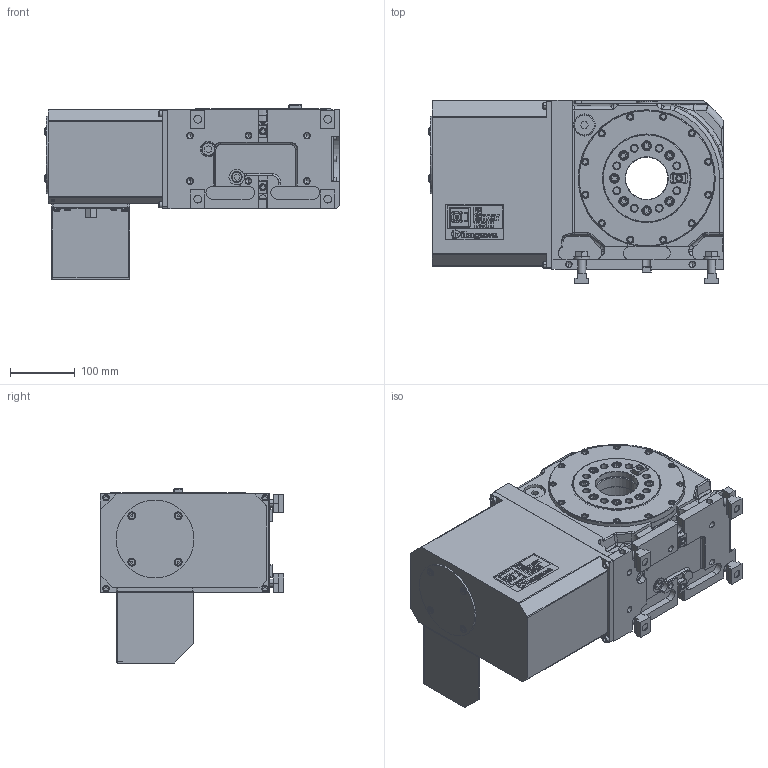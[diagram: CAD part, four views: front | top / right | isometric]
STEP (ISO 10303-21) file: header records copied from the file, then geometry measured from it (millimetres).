
FILE_DESCRIPTION (( 'STEP AP214' ), '1' );
FILE_NAME ('【掲載用】MK200付加軸左勝手.STEP', '2019-10-10T05:32:37', ( '' ), ( '' ), 'SwSTEP 2.0', 'SolidWorks 2017', '' );
FILE_SCHEMA (( 'AUTOMOTIVE_DESIGN' ));
Length unit declared in the file: millimetre
Products named in the file (25): 僣僶僣僉僾儔僌GFO M20x1.5; ネームプレートCE（61E483267）リベットメイバン; オイルゲージ３０８; CKR160 チェックバルブ AKB01A-01S-×435; クランプキミタテ(61E473251)CK160D1; シリンダ(61E281391); Tスロットナット１４１２; 僇僶乕A(61E445263)_奜娤梡; B パーカ　M12×40; ベアリングプッシュプレート(61E8405391)MK200RA00_回転モデル; ワッシャ １２(61M4266320)VQ100; MK200LAFホンタイ; ベース(61E1157753)MK200LA00_回転モデル; キタガワシール; SMC KQ2E06-02; 【掲載用】MK200付加軸左勝手; コネクタカバー(61E363968); コネクタプレート(61E4461165); 僇僶乕丂俹(61E4458212)B傾僫僣僉僥僀僩僂; モータケース(61E2860130)MK200LAF01; TABLE(61E8443975)MK200RA00; ガイドブロック(61M4198752); アナプラグ 04; アナプラグ 03; アナプラグ 02
Assembly tree (34 placements, depth 3):
  【掲載用】MK200付加軸左勝手
    MK200LAFホンタイ
      ベース(61E1157753)MK200LA00_回転モデル
      ベアリングプッシュプレート(61E8405391)MK200RA00_回転モデル
      僇僶乕A(61E445263)_奜娤梡
      シリンダ(61E281391)
      CKR160 チェックバルブ AKB01A-01S-×435
      オイルゲージ３０８
      ネームプレートCE（61E483267）リベットメイバン
      僣僶僣僉僾儔僌GFO M20x1.5  x2
      アナプラグ 02  x3
      アナプラグ 03  x4
      アナプラグ 04
      ガイドブロック(61M4198752)  x2
      TABLE(61E8443975)MK200RA00
      モータケース(61E2860130)MK200LAF01
      僇僶乕丂俹(61E4458212)B傾僫僣僉僥僀僩僂
      コネクタプレート(61E4461165)
      コネクタカバー(61E363968)
      SMC KQ2E06-02
      キタガワシール
    クランプキミタテ(61E473251)CK160D1  x4
      ワッシャ １２(61M4266320)VQ100
      B パーカ　M12×40
      Tスロットナット１４１２
Bounding box: 453.9 x 282 x 268 mm (x, y, z)
Volume: 15134392.4 mm3; surface area: 1107553.8 mm2
Topology: 40 solids, 41 shells, 3576 faces, 9195 edges, 5927 vertices
Faces by surface type: plane 2326, cylinder 775, cone 376, bspline 39, torus 39, sphere 21
Entity records: 114842 total; most frequent: CARTESIAN_POINT 20061, ORIENTED_EDGE 17204, DIRECTION 16911, EDGE_CURVE 8602, VECTOR 6593, LINE 6593, VERTEX_POINT 5603, AXIS2_PLACEMENT_3D 5159
